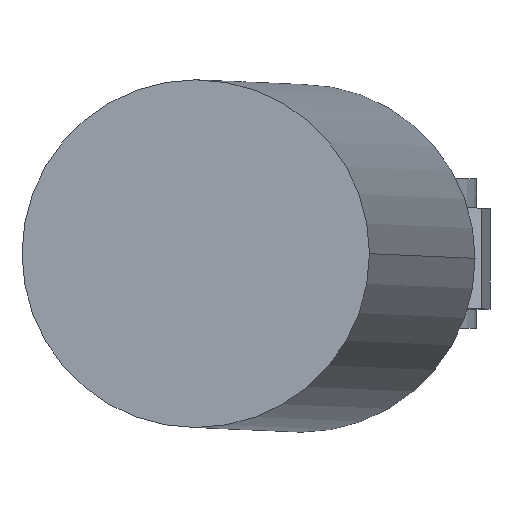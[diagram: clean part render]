
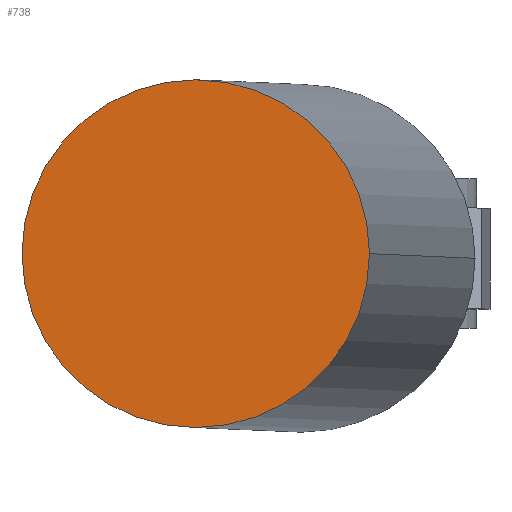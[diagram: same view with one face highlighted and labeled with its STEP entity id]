
A CAD part, top view. The second image highlights one B-rep face of the part: STEP entity #738.
In plain terms, the highlighted planar face has unit normal (-0.04, 0, 0.999).
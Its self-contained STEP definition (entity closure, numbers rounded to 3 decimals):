
#38 = CARTESIAN_POINT ( 'NONE',  ( 306.815, 271., 1923.074 ) ) ;
#83 = DIRECTION ( 'NONE',  ( -0.999, 0., -0.04 ) ) ;
#171 = FACE_OUTER_BOUND ( 'NONE', #214, .T. ) ;
#190 = DIRECTION ( 'NONE',  ( -0.999, 0., -0.04 ) ) ;
#191 = ORIENTED_EDGE ( 'NONE', *, *, #684, .F. ) ;
#200 = ORIENTED_EDGE ( 'NONE', *, *, #547, .F. ) ;
#214 = EDGE_LOOP ( 'NONE', ( #200, #191 ) ) ;
#288 = VERTEX_POINT ( 'NONE', #443 ) ;
#315 = AXIS2_PLACEMENT_3D ( 'NONE', #946, #459, #938 ) ;
#440 = CIRCLE ( 'NONE', #564, 50. ) ;
#443 = CARTESIAN_POINT ( 'NONE',  ( 256.854, 271., 1921.088 ) ) ;
#459 = DIRECTION ( 'NONE',  ( -0.04, 0., 0.999 ) ) ;
#525 = AXIS2_PLACEMENT_3D ( 'NONE', #616, #1006, #83 ) ;
#547 = EDGE_CURVE ( 'NONE', #288, #625, #1159, .T. ) ;
#564 = AXIS2_PLACEMENT_3D ( 'NONE', #38, #1050, #190 ) ;
#616 = CARTESIAN_POINT ( 'NONE',  ( 306.815, 271., 1923.074 ) ) ;
#624 = CARTESIAN_POINT ( 'NONE',  ( 356.775, 271., 1925.06 ) ) ;
#625 = VERTEX_POINT ( 'NONE', #624 ) ;
#684 = EDGE_CURVE ( 'NONE', #625, #288, #440, .T. ) ;
#738 = ADVANCED_FACE ( 'NONE', ( #171 ), #1031, .T. ) ;
#938 = DIRECTION ( 'NONE',  ( 0.999, 0., 0.04 ) ) ;
#946 = CARTESIAN_POINT ( 'NONE',  ( 306.815, 271., 1923.074 ) ) ;
#1006 = DIRECTION ( 'NONE',  ( 0.04, 0., -0.999 ) ) ;
#1031 = PLANE ( 'NONE',  #315 ) ;
#1050 = DIRECTION ( 'NONE',  ( 0.04, 0., -0.999 ) ) ;
#1159 = CIRCLE ( 'NONE', #525, 50. ) ;
